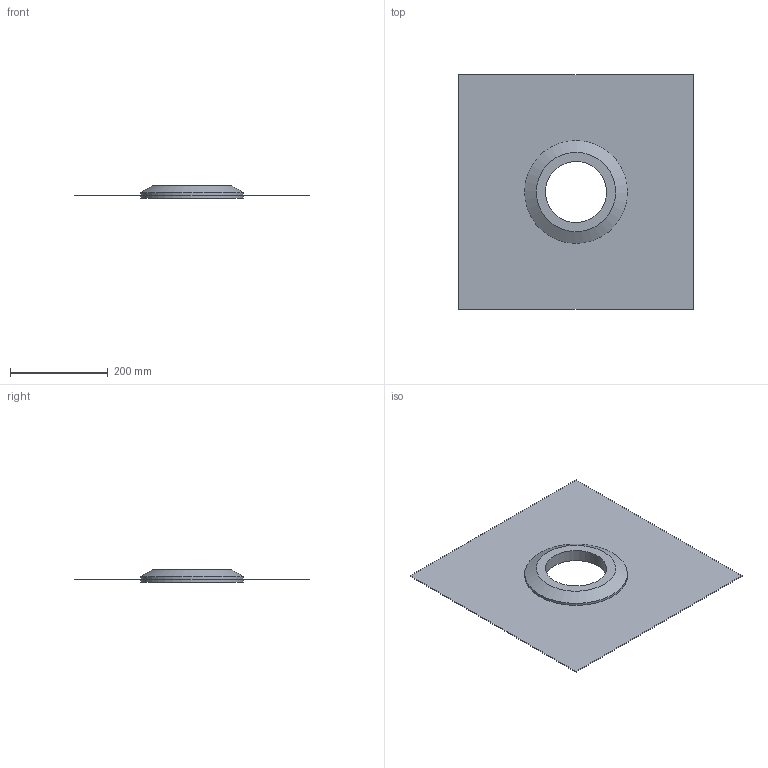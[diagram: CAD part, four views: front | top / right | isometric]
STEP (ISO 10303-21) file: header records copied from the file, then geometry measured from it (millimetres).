
FILE_DESCRIPTION(/* description */ (''),/* implementation_level */ '2;1');
FILE_NAME(/* name */ '368674.stp',/* time_stamp */ '2025-04-01T07:17:53+02:00',/* author */ ('JANAN'),/* organization */ (''),/* preprocessor_version */ 'ST-DEVELOPER v19.2',/* originating_system */ 'Autodesk Inventor 2023',/* authorisation */ '');
FILE_SCHEMA (('AUTOMOTIVE_DESIGN { 1 0 10303 214 3 1 1 }'));
Length unit declared in the file: millimetre
Products named in the file (1): tmp6CCC.tmp
Bounding box: 480 x 480 x 25 mm (x, y, z)
Volume: 693380.4 mm3; surface area: 521390.6 mm2
Topology: 2 solids, 2 shells, 16 faces, 29 edges, 19 vertices
Faces by surface type: plane 10, cylinder 5, cone 1
Full cylindrical faces by diameter (mm): 125 x1, 155 x2, 210 x2
Entity records: 462 total; most frequent: DIRECTION 74, CARTESIAN_POINT 65, ORIENTED_EDGE 58, EDGE_CURVE 29, AXIS2_PLACEMENT_3D 28, EDGE_LOOP 22, VERTEX_POINT 19, LINE 18
